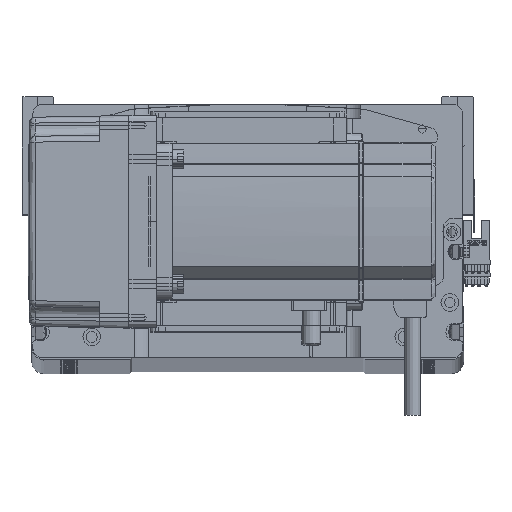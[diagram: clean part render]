
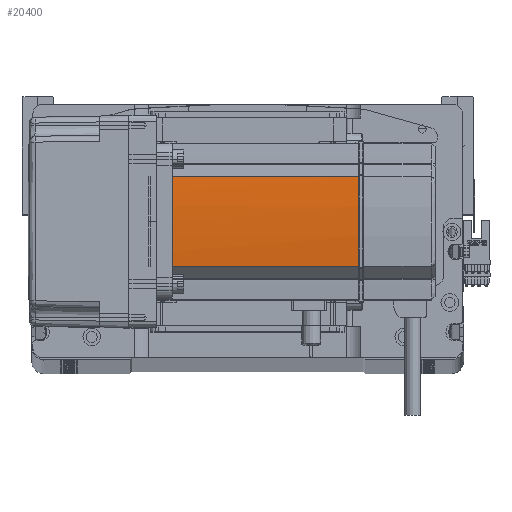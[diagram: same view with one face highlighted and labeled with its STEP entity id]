
A CAD part, top view. The second image highlights one B-rep face of the part: STEP entity #20400.
In plain terms, the highlighted cylindrical face has radius 270 mm (diameter 540 mm), a partial arc.
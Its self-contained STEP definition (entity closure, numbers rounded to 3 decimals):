
#1218 = LINE ( 'NONE', #24830, #16998 ) ;
#2580 = ORIENTED_EDGE ( 'NONE', *, *, #22383, .F. ) ;
#2637 = VERTEX_POINT ( 'NONE', #32407 ) ;
#4207 = CIRCLE ( 'NONE', #11648, 270. ) ;
#5338 = CARTESIAN_POINT ( 'NONE',  ( 40., 0.127, 134. ) ) ;
#6931 = DIRECTION ( 'NONE',  ( 0., 0., -1. ) ) ;
#7549 = ORIENTED_EDGE ( 'NONE', *, *, #21367, .T. ) ;
#7720 = CARTESIAN_POINT ( 'NONE',  ( 39.042, 22.724, 58. ) ) ;
#10277 = CARTESIAN_POINT ( 'NONE',  ( 39.042, 22.724, 39. ) ) ;
#11648 = AXIS2_PLACEMENT_3D ( 'NONE', #35748, #6931, #54421 ) ;
#15237 = AXIS2_PLACEMENT_3D ( 'NONE', #44137, #43912, #44336 ) ;
#16998 = VECTOR ( 'NONE', #53607, 1000. ) ;
#18732 = CARTESIAN_POINT ( 'NONE',  ( 39.042, 22.724, 134. ) ) ;
#19266 = EDGE_LOOP ( 'NONE', ( #7549, #39407, #29768, #42566, #2580, #31578 ) ) ;
#20400 = ADVANCED_FACE ( 'NONE', ( #54648 ), #27605, .T. ) ;
#20611 = B_SPLINE_CURVE_WITH_KNOTS ( 'NONE', 3,
 ( #42503, #42920, #28250, #52767 ),
 .UNSPECIFIED., .F., .F.,
 ( 4, 4 ),
 ( 0., 1. ),
 .UNSPECIFIED. ) ;
#21367 = EDGE_CURVE ( 'NONE', #53544, #2637, #1218, .T. ) ;
#21533 = EDGE_CURVE ( 'NONE', #49027, #52739, #4207, .T. ) ;
#22383 = EDGE_CURVE ( 'NONE', #26819, #52739, #20611, .T. ) ;
#23215 = CARTESIAN_POINT ( 'NONE',  ( 39.042, -22.724, 134. ) ) ;
#24830 = CARTESIAN_POINT ( 'NONE',  ( 39.042, -22.724, 58. ) ) ;
#24981 = CARTESIAN_POINT ( 'NONE',  ( 40., -0.127, 134. ) ) ;
#26819 = VERTEX_POINT ( 'NONE', #24981 ) ;
#27605 = CYLINDRICAL_SURFACE ( 'NONE', #50985, 270. ) ;
#28250 = CARTESIAN_POINT ( 'NONE',  ( 40., 0.042, 134. ) ) ;
#29026 = EDGE_CURVE ( 'NONE', #26819, #53544, #53677, .T. ) ;
#29768 = ORIENTED_EDGE ( 'NONE', *, *, #51248, .T. ) ;
#30117 = CARTESIAN_POINT ( 'NONE',  ( -230., 0., 39. ) ) ;
#30218 = DIRECTION ( 'NONE',  ( -1., 0., 0. ) ) ;
#30826 = DIRECTION ( 'NONE',  ( 0., 0., -1. ) ) ;
#30975 = EDGE_CURVE ( 'NONE', #61466, #2637, #48894, .T. ) ;
#31578 = ORIENTED_EDGE ( 'NONE', *, *, #29026, .T. ) ;
#32407 = CARTESIAN_POINT ( 'NONE',  ( 39.042, -22.724, 39. ) ) ;
#35034 = CARTESIAN_POINT ( 'NONE',  ( -230., 0., 58. ) ) ;
#35748 = CARTESIAN_POINT ( 'NONE',  ( -230., 0., 134. ) ) ;
#35758 = DIRECTION ( 'NONE',  ( 0., 0., -1. ) ) ;
#38665 = AXIS2_PLACEMENT_3D ( 'NONE', #30117, #35758, #54431 ) ;
#38820 = LINE ( 'NONE', #7720, #61336 ) ;
#39407 = ORIENTED_EDGE ( 'NONE', *, *, #30975, .F. ) ;
#41328 = DIRECTION ( 'NONE',  ( 0., 0., 1. ) ) ;
#42503 = CARTESIAN_POINT ( 'NONE',  ( 40., -0.127, 134. ) ) ;
#42566 = ORIENTED_EDGE ( 'NONE', *, *, #21533, .T. ) ;
#42920 = CARTESIAN_POINT ( 'NONE',  ( 40., -0.042, 134. ) ) ;
#43912 = DIRECTION ( 'NONE',  ( 0., 0., -1. ) ) ;
#44137 = CARTESIAN_POINT ( 'NONE',  ( -230., 0., 134. ) ) ;
#44336 = DIRECTION ( 'NONE',  ( -1., 0., 0. ) ) ;
#48894 = CIRCLE ( 'NONE', #38665, 270. ) ;
#49027 = VERTEX_POINT ( 'NONE', #18732 ) ;
#50985 = AXIS2_PLACEMENT_3D ( 'NONE', #35034, #30826, #30218 ) ;
#51248 = EDGE_CURVE ( 'NONE', #61466, #49027, #38820, .T. ) ;
#52739 = VERTEX_POINT ( 'NONE', #5338 ) ;
#52767 = CARTESIAN_POINT ( 'NONE',  ( 40., 0.127, 134. ) ) ;
#53544 = VERTEX_POINT ( 'NONE', #23215 ) ;
#53607 = DIRECTION ( 'NONE',  ( 0., 0., -1. ) ) ;
#53677 = CIRCLE ( 'NONE', #15237, 270. ) ;
#54421 = DIRECTION ( 'NONE',  ( -1., 0., 0. ) ) ;
#54431 = DIRECTION ( 'NONE',  ( -1., 0., 0. ) ) ;
#54648 = FACE_OUTER_BOUND ( 'NONE', #19266, .T. ) ;
#61336 = VECTOR ( 'NONE', #41328, 1000. ) ;
#61466 = VERTEX_POINT ( 'NONE', #10277 ) ;
